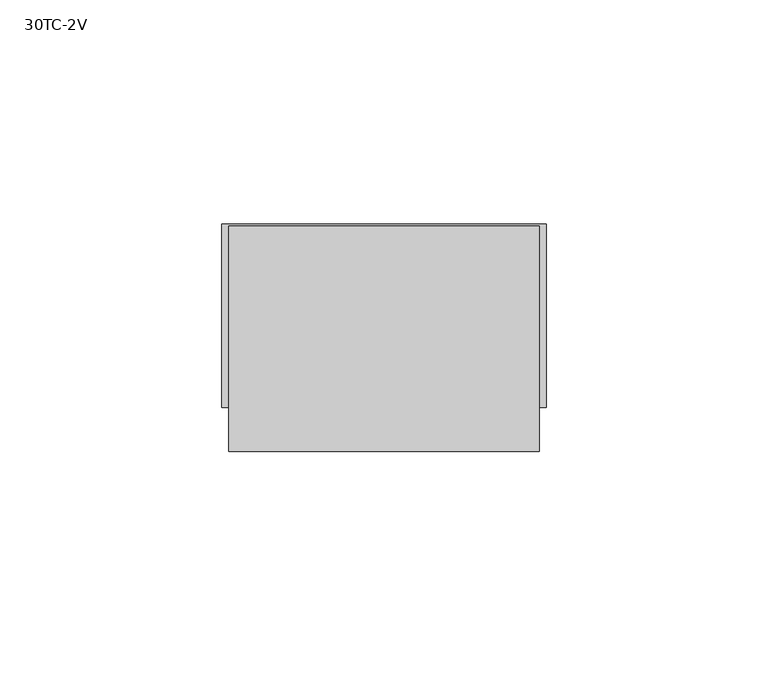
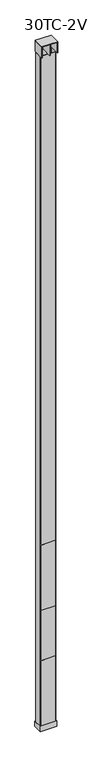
"""IFC4 building model written with IfcOpenShell, lengths in millimetres: proxy geometry, Vertical_Drop_Pole-Wiremold-Blank_Steel_Pole_Single_Compartment : 30TC-2V."""

from ifc_helpers import new_model, si_unit, point, frame, frame_2d, origin, origin_with_axes, place, context, project, spatial, polyline, circle_curve, trimmed, segment, composite_curve, outline, extrude, source, transform, mapped, element, save


def proxy_30tc_2v_e36cc579(model_context):
    return source(origin(), model_context, "Body", "SweptSolid", [
        extrude(outline(polyline([(30.9724052, -15.9657638), (-31.0275948, -15.9657638), (-31.0275948, -14.9657638), (30.9724052, -14.9657638), (30.9724052, -15.9657638)])), frame((0.0, 0.0, 568.9427083), z_axis=(0.0, 0.0, 1.0), x_axis=(1.0, 0.0, 0.0)), (0.0, 0.0, 1.0), 306.3875),
        extrude(outline(polyline([(30.9724052, -15.9657638), (-31.0275948, -15.9657638), (-31.0275948, -14.9657638), (30.9724052, -14.9657638), (30.9724052, -15.9657638)])), frame((0.0, 0.0, 25.4), z_axis=(0.0, 0.0, 1.0), x_axis=(1.0, 0.0, 0.0)), (0.0, 0.0, 1.0), 306.3875),
        extrude(outline(polyline([(-0.8929688, -28.0704513), (-0.8929688, 22.7295487), (0.8929687, 22.7295487), (0.8929687, -28.0704513), (-0.8929688, -28.0704513)])), frame((0.0, 0.0, 3175.0), z_axis=(0.0, 0.0, 1.0), x_axis=(1.0, 0.0, 0.0)), (0.0, 0.0, 1.0), 50.8),
        extrude(outline(polyline([(-23.8969536, 21.1420487), (23.8969536, 21.1420487), (23.8969536, 19.5545487), (-23.8969536, 19.5545487), (-23.8969536, 21.1420487)])), frame((0.0, 0.0, 3148.0125), z_axis=(0.0, 0.0, 1.0), x_axis=(1.0, 0.0, 0.0)), (0.0, 0.0, 1.0), 26.9875),
        extrude(outline(polyline([(-33.3375, 22.7295487), (33.3375, 22.7295487), (33.3375, 21.1420487), (-33.3375, 21.1420487), (-33.3375, 22.7295487)])), frame((0.0, 0.0, 3175.0), z_axis=(0.0, 0.0, 1.0), x_axis=(1.0, 0.0, 0.0)), (0.0, 0.0, 1.0), 50.8),
        extrude(outline(polyline([(-34.925, -28.0704513), (-34.925, 22.7295487), (-33.3375, 22.7295487), (-33.3375, -28.0704513), (-34.925, -28.0704513)])), frame((0.0, 0.0, 3175.0), z_axis=(0.0, 0.0, 1.0), x_axis=(1.0, 0.0, 0.0)), (0.0, 0.0, 1.0), 50.8),
        extrude(outline(polyline([(33.3375, -28.0704513), (33.3375, 22.7295487), (34.925, 22.7295487), (34.925, -28.0704513), (33.3375, -28.0704513)])), frame((0.0, 0.0, 3175.0), z_axis=(0.0, 0.0, 1.0), x_axis=(1.0, 0.0, 0.0)), (0.0, 0.0, 1.0), 50.8),
        extrude(outline(polyline([(-34.925, -28.0704513), (-34.925, 22.7295487), (34.925, 22.7295487), (34.925, -28.0704513), (-34.925, -28.0704513)])), frame((0.0, 0.0, 3225.8), z_axis=(0.0, 0.0, 1.0), x_axis=(1.0, 0.0, 0.0)), (0.0, 0.0, 1.0), 1.5875),
        extrude(outline(composite_curve([segment(trimmed(circle_curve(frame_2d((30.925, 18.1342362)), 4.0), [point((30.925, 22.1342362))], [point((34.925, 18.1342362))], False, "CARTESIAN"), True, "CONTINUOUS"), segment(polyline([(34.925, 18.1342362), (34.925, -11.9657638)]), True, "CONTINUOUS"), segment(trimmed(circle_curve(frame_2d((30.925, -11.9657638)), 4.0), [point((34.925, -11.9657638))], [point((30.925, -15.9657638))], False, "CARTESIAN"), True, "CONTINUOUS"), segment(polyline([(30.925, -15.9657638), (-30.925, -15.9657638)]), True, "CONTINUOUS"), segment(trimmed(circle_curve(frame_2d((-30.925, -11.9657638)), 4.0), [point((-30.925, -15.9657638))], [point((-34.925, -11.9657638))], False, "CARTESIAN"), True, "CONTINUOUS"), segment(polyline([(-34.925, -11.9657638), (-34.925, 18.1342362)]), True, "CONTINUOUS"), segment(trimmed(circle_curve(frame_2d((-30.925, 18.1342362)), 4.0), [point((-34.925, 18.1342362))], [point((-30.925, 22.1342362))], False, "CARTESIAN"), True, "CONTINUOUS"), segment(polyline([(-30.925, 22.1342362), (30.925, 22.1342362)]), True, "CONTINUOUS")], self_intersect=False), holes=[composite_curve([segment(trimmed(circle_curve(frame_2d((-29.925, -10.9657638)), 4.0), [point((-33.925, -10.9657638))], [point((-29.925, -14.9657638))], True, "CARTESIAN"), True, "CONTINUOUS"), segment(polyline([(-29.925, -14.9657638), (29.925, -14.9657638)]), True, "CONTINUOUS"), segment(trimmed(circle_curve(frame_2d((29.925, -10.9657638)), 4.0), [point((29.925, -14.9657638))], [point((33.925, -10.9657638))], True, "CARTESIAN"), True, "CONTINUOUS"), segment(polyline([(33.925, -10.9657638), (33.925, 17.1342362)]), True, "CONTINUOUS"), segment(trimmed(circle_curve(frame_2d((29.925, 17.1342362)), 4.0), [point((33.925, 17.1342362))], [point((29.925, 21.1342362))], True, "CARTESIAN"), True, "CONTINUOUS"), segment(polyline([(29.925, 21.1342362), (-29.925, 21.1342362)]), True, "CONTINUOUS"), segment(trimmed(circle_curve(frame_2d((-29.925, 17.1342362)), 4.0), [point((-29.925, 21.1342362))], [point((-33.925, 17.1342362))], True, "CARTESIAN"), True, "CONTINUOUS"), segment(polyline([(-33.925, 17.1342362), (-33.925, -10.9657638)]), True, "CONTINUOUS")], self_intersect=False)]), origin_with_axes(), (0.0, 0.0, 1.0), 3175.0),
        extrude(outline(polyline([(-36.5125, 23.7217362), (36.5125, 23.7217362), (36.5125, -17.5532638), (-36.5125, -17.5532638), (-36.5125, 23.7217362)]), holes=[polyline([(34.925, 22.1342362), (-34.925, 22.1342362), (-34.925, -15.9657638), (34.925, -15.9657638), (34.925, 22.1342362)])]), origin_with_axes(), (0.0, 0.0, 1.0), 25.4),
    ])


if __name__ == "__main__":
    model = new_model("IFC4")
    model_context = context("Model", 3, world=origin())
    ifc_project = project(units=[si_unit("LENGTHUNIT", "METRE", prefix="MILLI")], contexts=[model_context])
    site = spatial("IfcSite", under=ifc_project)
    building = spatial("IfcBuilding", under=site)
    placement = place(None, origin())
    proxy_30tc_2v_shape = proxy_30tc_2v_e36cc579(model_context)
    element("IfcBuildingElementProxy", 1, Name="Vertical_Drop_Pole-Wiremold-Blank_Steel_Pole_Single_Compartment : 30TC-2V", ObjectType="Vertical_Drop_Pole-Wiremold-Blank_Steel_Pole_Single_Compartment : 30TC-2V", at=placement, inside=building, context=model_context, shape_type="MappedRepresentation", body=[
        mapped(proxy_30tc_2v_shape, transform((0.0, 0.0, 0.0), x_axis=(1.0, 0.0, 0.0), y_axis=(0.0, 1.0, 0.0), z_axis=(0.0, 0.0, 1.0))),
    ])
    save(model, "model.ifc")
